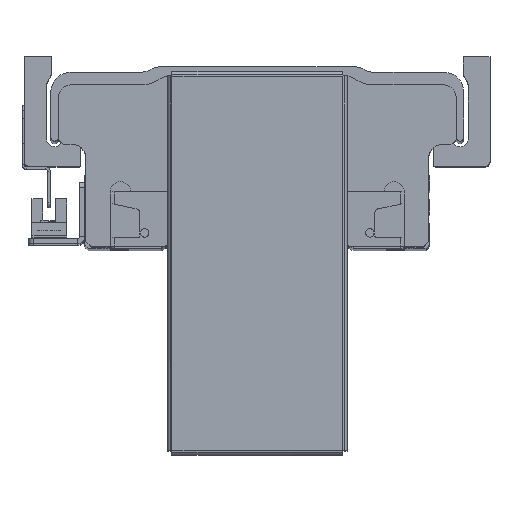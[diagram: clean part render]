
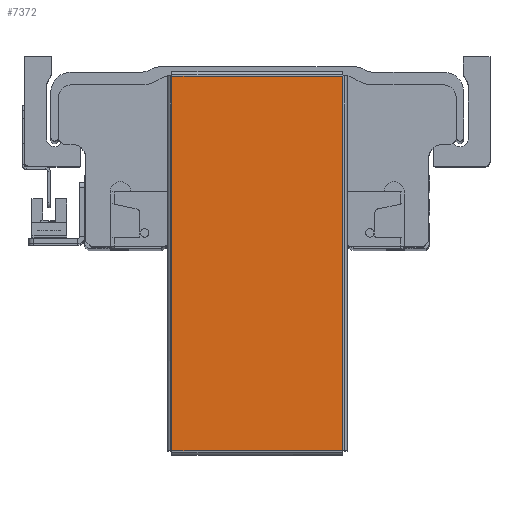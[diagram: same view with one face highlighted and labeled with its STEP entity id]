
A CAD part, top view. The second image highlights one B-rep face of the part: STEP entity #7372.
In plain terms, the highlighted planar face has unit normal (0, 0, 1) as drawn and (0, -1, 0) by its records, which use the part's own axes.
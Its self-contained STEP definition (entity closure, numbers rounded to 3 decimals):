
#1306 = CARTESIAN_POINT ( 'NONE',  ( 73.263, -1., -33.393 ) ) ;
#1327 = DIRECTION ( 'NONE',  ( 0., 0., 1. ) ) ;
#1522 = DIRECTION ( 'NONE',  ( -1., 0., 0. ) ) ;
#1543 = CARTESIAN_POINT ( 'NONE',  ( 73.293, -1., 33.363 ) ) ;
#1548 = CARTESIAN_POINT ( 'NONE',  ( -73.263, -1., 33.393 ) ) ;
#1597 = DIRECTION ( 'NONE',  ( 0., 0., -1. ) ) ;
#1614 = CARTESIAN_POINT ( 'NONE',  ( -73.293, -1., -33.363 ) ) ;
#1634 = DIRECTION ( 'NONE',  ( 1., 0., 0. ) ) ;
#4528 = EDGE_CURVE ( 'NONE', #7808, #7839, #15126, .T. ) ;
#4546 = EDGE_CURVE ( 'NONE', #7871, #7745, #15136, .T. ) ;
#4556 = EDGE_CURVE ( 'NONE', #7839, #7871, #15090, .T. ) ;
#4565 = EDGE_CURVE ( 'NONE', #7745, #7808, #15190, .T. ) ;
#7372 = ADVANCED_FACE ( 'NONE', ( #38797 ), #40459, .F. ) ;
#7745 = VERTEX_POINT ( 'NONE', #47150 ) ;
#7808 = VERTEX_POINT ( 'NONE', #47237 ) ;
#7839 = VERTEX_POINT ( 'NONE', #47227 ) ;
#7871 = VERTEX_POINT ( 'NONE', #47283 ) ;
#15090 = LINE ( 'NONE', #1543, #15143 ) ;
#15095 = VECTOR ( 'NONE', #1327, 1000. ) ;
#15102 = VECTOR ( 'NONE', #1597, 1000. ) ;
#15126 = LINE ( 'NONE', #1306, #15095 ) ;
#15136 = LINE ( 'NONE', #1548, #15102 ) ;
#15143 = VECTOR ( 'NONE', #1522, 1000. ) ;
#15145 = VECTOR ( 'NONE', #1634, 1000. ) ;
#15190 = LINE ( 'NONE', #1614, #15145 ) ;
#24193 = EDGE_LOOP ( 'NONE', ( #41286, #41250, #41288, #41218 ) ) ;
#34851 = AXIS2_PLACEMENT_3D ( 'NONE', #40492, #40465, #40476 ) ;
#38797 = FACE_OUTER_BOUND ( 'NONE', #24193, .T. ) ;
#40459 = PLANE ( 'NONE',  #34851 ) ;
#40465 = DIRECTION ( 'NONE',  ( 0., 1., 0. ) ) ;
#40476 = DIRECTION ( 'NONE',  ( 0., 0., 1. ) ) ;
#40492 = CARTESIAN_POINT ( 'NONE',  ( 0., -1., 0. ) ) ;
#41218 = ORIENTED_EDGE ( 'NONE', *, *, #4528, .T. ) ;
#41250 = ORIENTED_EDGE ( 'NONE', *, *, #4546, .T. ) ;
#41286 = ORIENTED_EDGE ( 'NONE', *, *, #4556, .T. ) ;
#41288 = ORIENTED_EDGE ( 'NONE', *, *, #4565, .T. ) ;
#47150 = CARTESIAN_POINT ( 'NONE',  ( -73.263, -1., -33.363 ) ) ;
#47227 = CARTESIAN_POINT ( 'NONE',  ( 73.263, -1., 33.363 ) ) ;
#47237 = CARTESIAN_POINT ( 'NONE',  ( 73.263, -1., -33.363 ) ) ;
#47283 = CARTESIAN_POINT ( 'NONE',  ( -73.263, -1., 33.363 ) ) ;
